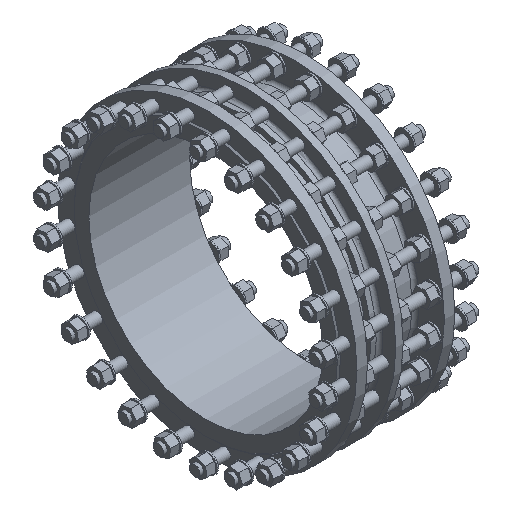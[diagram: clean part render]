
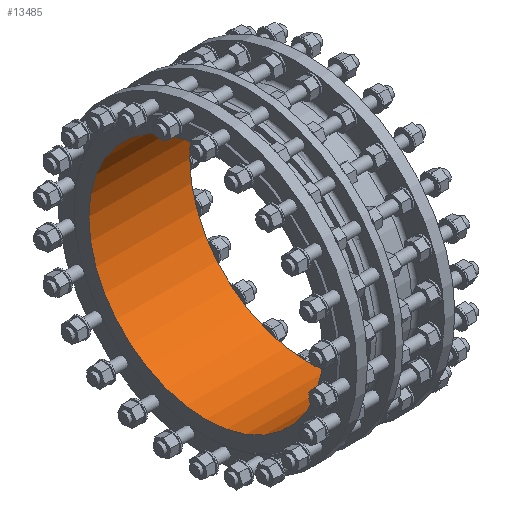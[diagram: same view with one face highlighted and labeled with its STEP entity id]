
A CAD part, isometric view. The second image highlights one B-rep face of the part: STEP entity #13485.
In plain terms, the highlighted cylindrical face has radius 400 mm (diameter 800 mm), a full revolution.
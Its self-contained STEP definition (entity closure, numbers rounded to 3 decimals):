
#5300 = CARTESIAN_POINT ( 'NONE',  ( 181.928, 0., 0. ) ) ;
#8074 = VERTEX_POINT ( 'NONE', #13726 ) ;
#9777 = CARTESIAN_POINT ( 'NONE',  ( -88.072, 0., 0. ) ) ;
#10021 = VERTEX_POINT ( 'NONE', #12769 ) ;
#10471 = EDGE_CURVE ( 'NONE', #8074, #8074, #20798, .T. ) ;
#10512 = EDGE_LOOP ( 'NONE', ( #19003 ) ) ;
#11225 = EDGE_LOOP ( 'NONE', ( #13560 ) ) ;
#12470 = CARTESIAN_POINT ( 'NONE',  ( -163.072, 0., 0. ) ) ;
#12769 = CARTESIAN_POINT ( 'NONE',  ( 181.928, -400., 0. ) ) ;
#13485 = ADVANCED_FACE ( 'NONE', ( #24380, #24761 ), #36247, .F. ) ;
#13560 = ORIENTED_EDGE ( 'NONE', *, *, #19050, .F. ) ;
#13726 = CARTESIAN_POINT ( 'NONE',  ( -163.072, 0., -400. ) ) ;
#17170 = DIRECTION ( 'NONE',  ( -1., 0., 0. ) ) ;
#17395 = DIRECTION ( 'NONE',  ( 0., 0., -1. ) ) ;
#18155 = DIRECTION ( 'NONE',  ( 0., -1., 0. ) ) ;
#19003 = ORIENTED_EDGE ( 'NONE', *, *, #10471, .F. ) ;
#19050 = EDGE_CURVE ( 'NONE', #10021, #10021, #19607, .T. ) ;
#19607 = CIRCLE ( 'NONE', #22090, 400. ) ;
#20798 = CIRCLE ( 'NONE', #29486, 400. ) ;
#22090 = AXIS2_PLACEMENT_3D ( 'NONE', #5300, #17170, #23967 ) ;
#23967 = DIRECTION ( 'NONE',  ( 0., -1., 0. ) ) ;
#24380 = FACE_OUTER_BOUND ( 'NONE', #11225, .T. ) ;
#24761 = FACE_OUTER_BOUND ( 'NONE', #10512, .T. ) ;
#29486 = AXIS2_PLACEMENT_3D ( 'NONE', #12470, #29658, #17395 ) ;
#29658 = DIRECTION ( 'NONE',  ( 1., 0., 0. ) ) ;
#36247 = CYLINDRICAL_SURFACE ( 'NONE', #36756, 400. ) ;
#36631 = DIRECTION ( 'NONE',  ( -1., 0., 0. ) ) ;
#36756 = AXIS2_PLACEMENT_3D ( 'NONE', #9777, #36631, #18155 ) ;
